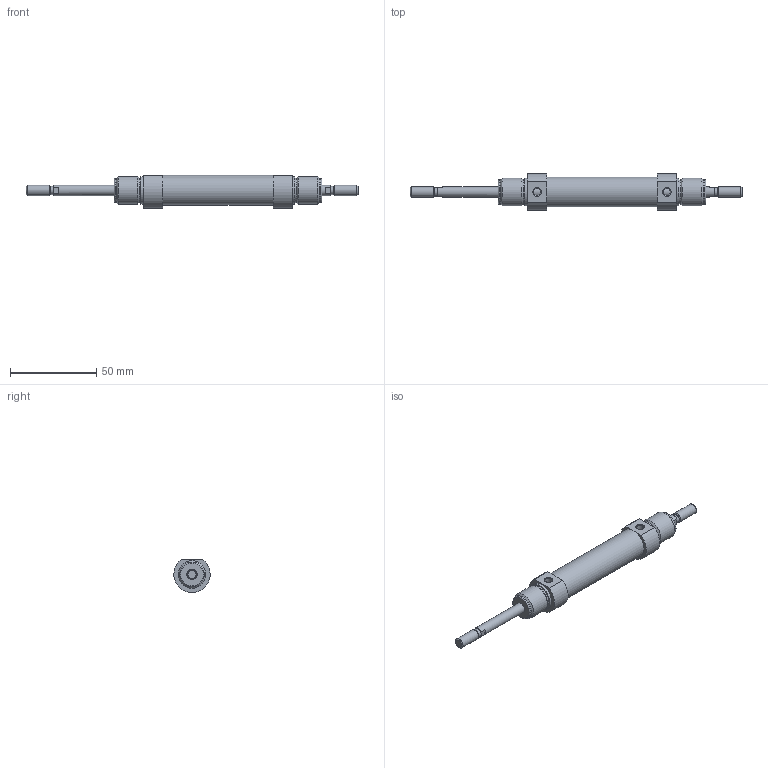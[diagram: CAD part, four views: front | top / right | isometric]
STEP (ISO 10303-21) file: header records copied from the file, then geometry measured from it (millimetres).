
FILE_DESCRIPTION( ( 'STEP AP203' ), '1' );
FILE_NAME( '//expscmdclustefs.cadenas.external/client_exchange/iodir/jobs/output/wkb68411643_no0/STEP/M101-016-0030--__0__2_03.stp', ' ', ( ' ' ), ( ' ' ), 'PSStep 15.0.47', 'PARTsolutions', ' ' );
FILE_SCHEMA( ( 'CONFIG_CONTROL_DESIGN' ) );
Length unit declared in the file: millimetre
Products named in the file (3): M101-016-0030-- [0]; HI_M101-016-0030---[0]-z; HI_M101-016-0030---[0]-k
Assembly tree (2 placements, depth 2):
  M101-016-0030-- [0]
    HI_M101-016-0030---[0]-z
    HI_M101-016-0030---[0]-k
Bounding box: 192 x 20.94 x 19.09 mm (x, y, z)
Volume: 25472 mm3; surface area: 15465.7 mm2
Topology: 2 solids, 2 shells, 67 faces, 135 edges, 82 vertices
Faces by surface type: plane 28, cylinder 23, cone 14, torus 2
Full cylindrical faces by diameter (mm): 4.134 x2, 4.773 x2, 6 x6, 14.16 x4, 16 x6, 17.3 x1
Entity records: 1730 total; most frequent: CARTESIAN_POINT 334, DIRECTION 292, ORIENTED_EDGE 196, AXIS2_PLACEMENT_3D 132, EDGE_LOOP 116, EDGE_CURVE 98, FACE_OUTER_BOUND 90, VERTEX_POINT 78
